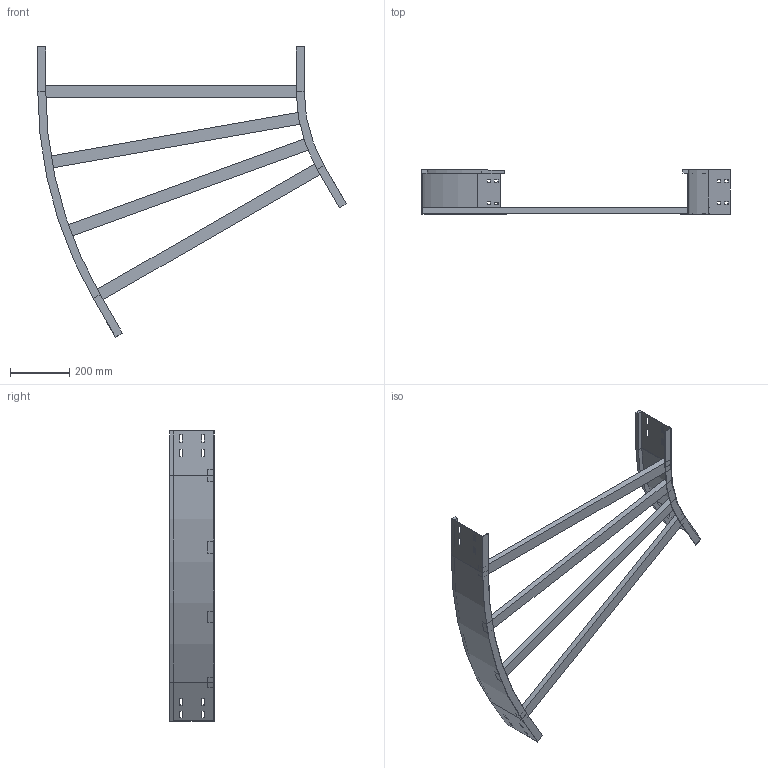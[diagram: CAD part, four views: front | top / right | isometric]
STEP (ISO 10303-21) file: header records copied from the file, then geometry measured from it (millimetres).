
FILE_DESCRIPTION (( 'STEP AP214' ), '1' );
FILE_NAME ('12J5F900.step', '2025-02-21T16:23:58', ( '' ), ( '' ), 'SwSTEP 2.0', 'SolidWorks 2023', '' );
FILE_SCHEMA (( 'AUTOMOTIVE_DESIGN' ));
Length unit declared in the file: millimetre
Products named in the file (4): TRAVERSINO_900; LONGH.ESTERNO 30°_H150_R500+900; LONGH.INTERNO 30°_H150_R500; 12J5F900
Assembly tree (6 placements, depth 2):
  12J5F900
    LONGH.INTERNO 30°_H150_R500
    LONGH.ESTERNO 30°_H150_R500+900
    TRAVERSINO_900  x4
Bounding box: 1041.99 x 150 x 979.9 mm (x, y, z)
Volume: 3760242 mm3; surface area: 1052895.3 mm2
Topology: 6 solids, 6 shells, 140 faces, 352 edges, 224 vertices
Faces by surface type: plane 132, cylinder 8
Entity records: 3829 total; most frequent: CARTESIAN_POINT 647, ORIENTED_EDGE 632, DIRECTION 594, EDGE_CURVE 316, LINE 300, VECTOR 300, VERTEX_POINT 200, EDGE_LOOP 154
